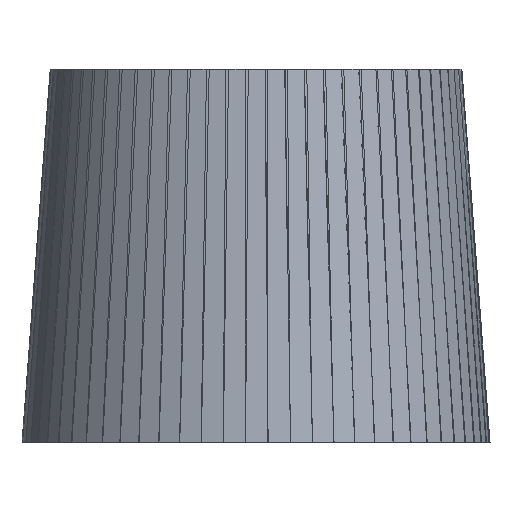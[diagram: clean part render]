
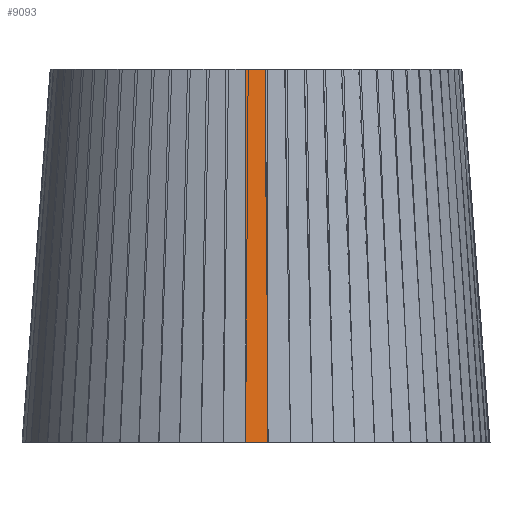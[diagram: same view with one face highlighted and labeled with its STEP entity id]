
A CAD part, front view. The second image highlights one B-rep face of the part: STEP entity #9093.
In plain terms, the highlighted planar face has unit normal (0.037, -0.997, 0.075).
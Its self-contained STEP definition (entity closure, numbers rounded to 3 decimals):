
#365=FACE_OUTER_BOUND('',#933,.T.);
#933=EDGE_LOOP('',(#6490,#6491,#6492,#6493));
#1657=LINE('',#13227,#2873);
#1671=LINE('',#13254,#2887);
#1672=LINE('',#13256,#2888);
#1673=LINE('',#13257,#2889);
#2873=VECTOR('',#10749,304.8);
#2887=VECTOR('',#10771,304.8);
#2888=VECTOR('',#10774,304.8);
#2889=VECTOR('',#10775,304.8);
#3992=VERTEX_POINT('',#13223);
#3994=VERTEX_POINT('',#13226);
#4002=VERTEX_POINT('',#13250);
#4003=VERTEX_POINT('',#13252);
#4921=EDGE_CURVE('',#3994,#3992,#1657,.T.);
#4935=EDGE_CURVE('',#4002,#4003,#1671,.T.);
#4936=EDGE_CURVE('',#4002,#3992,#1672,.T.);
#4937=EDGE_CURVE('',#3994,#4003,#1673,.T.);
#6490=ORIENTED_EDGE('',*,*,#4936,.F.);
#6491=ORIENTED_EDGE('',*,*,#4935,.T.);
#6492=ORIENTED_EDGE('',*,*,#4937,.F.);
#6493=ORIENTED_EDGE('',*,*,#4921,.T.);
#8551=PLANE('',#9734);
#9093=ADVANCED_FACE('',(#365),#8551,.T.);
#9734=AXIS2_PLACEMENT_3D('',#13255,#10772,#10773);
#10749=DIRECTION('',(0.,0.075,0.997));
#10771=DIRECTION('',(0.,-0.075,-0.997));
#10772=DIRECTION('center_axis',(0.037,-0.996,0.075));
#10773=DIRECTION('ref_axis',(-0.999,-0.037,0.003));
#10774=DIRECTION('',(0.999,0.037,-0.003));
#10775=DIRECTION('',(-0.999,-0.037,0.003));
#13223=CARTESIAN_POINT('',(6.397,-109.857,200.075));
#13226=CARTESIAN_POINT('',(6.449,-124.978,0.075));
#13227=CARTESIAN_POINT('',(6.449,-124.978,0.075));
#13250=CARTESIAN_POINT('',(-5.601,-110.297,200.106));
#13252=CARTESIAN_POINT('',(-5.55,-125.418,0.106));
#13254=CARTESIAN_POINT('',(-5.601,-110.297,200.106));
#13255=CARTESIAN_POINT('Origin',(0.398,-110.077,200.09));
#13256=CARTESIAN_POINT('',(-5.601,-110.297,200.106));
#13257=CARTESIAN_POINT('',(6.449,-124.978,0.075));
